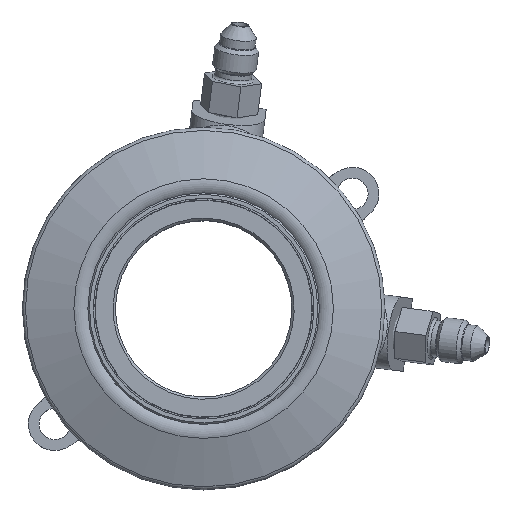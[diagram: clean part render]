
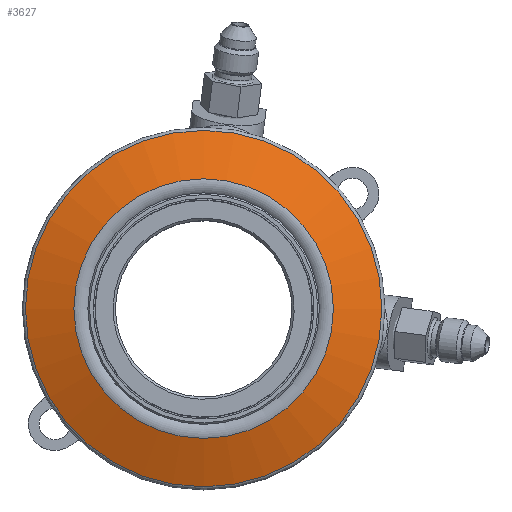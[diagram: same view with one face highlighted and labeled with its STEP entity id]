
A CAD part, top view. The second image highlights one B-rep face of the part: STEP entity #3627.
In plain terms, the highlighted conical face has half-angle 70 degrees and reference radius 39.15 mm.
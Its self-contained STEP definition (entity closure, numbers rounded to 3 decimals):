
#192=CONICAL_SURFACE('',#4002,39.15,1.222);
#1069=ORIENTED_EDGE('',*,*,#1391,.F.);
#1070=ORIENTED_EDGE('',*,*,#1376,.T.);
#1376=EDGE_CURVE('',#1672,#1672,#1810,.T.);
#1391=EDGE_CURVE('',#1687,#1687,#1825,.T.);
#1672=VERTEX_POINT('',#6406);
#1687=VERTEX_POINT('',#6448);
#1810=CIRCLE('',#3974,38.492);
#1825=CIRCLE('',#4001,28.026);
#2115=EDGE_LOOP('',(#1069));
#2116=EDGE_LOOP('',(#1070));
#2429=FACE_BOUND('',#2115,.T.);
#2430=FACE_BOUND('',#2116,.T.);
#3627=ADVANCED_FACE('',(#2429,#2430),#192,.T.);
#3974=AXIS2_PLACEMENT_3D('',#6405,#4655,#4656);
#4001=AXIS2_PLACEMENT_3D('',#6447,#4709,#4710);
#4002=AXIS2_PLACEMENT_3D('',#6449,#4711,#4712);
#4655=DIRECTION('',(0.,0.,1.));
#4656=DIRECTION('',(1.,0.,0.));
#4709=DIRECTION('',(0.,0.,1.));
#4710=DIRECTION('',(1.,0.,0.));
#4711=DIRECTION('',(0.,0.,-1.));
#4712=DIRECTION('',(-1.,0.,0.));
#6405=CARTESIAN_POINT('',(0.,0.,152.897));
#6406=CARTESIAN_POINT('',(38.492,0.,152.897));
#6447=CARTESIAN_POINT('',(0.,0.,156.707));
#6448=CARTESIAN_POINT('',(28.026,0.,156.707));
#6449=CARTESIAN_POINT('',(0.,0.,152.658));
